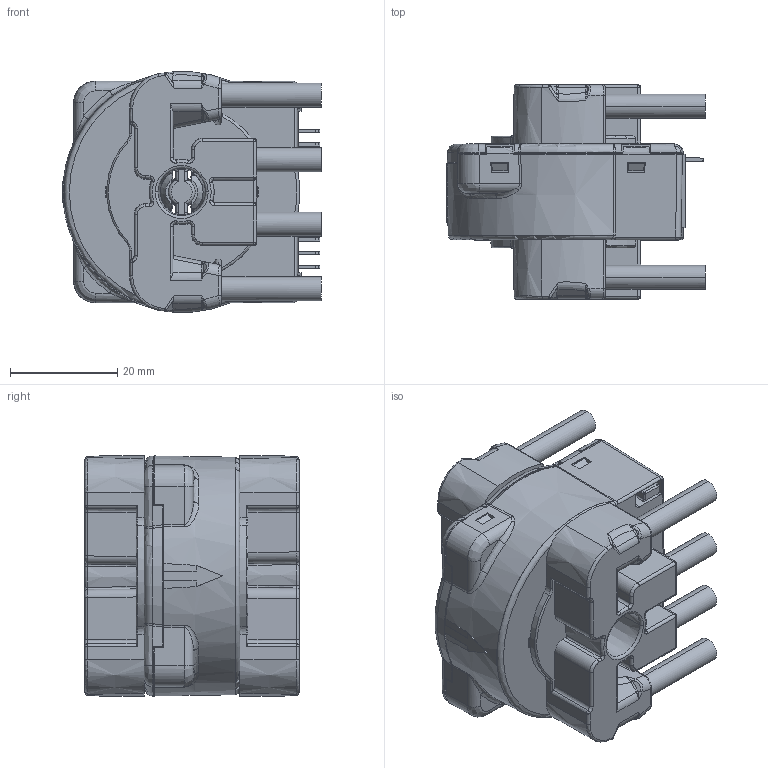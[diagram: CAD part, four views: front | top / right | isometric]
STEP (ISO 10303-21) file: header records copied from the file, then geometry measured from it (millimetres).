
FILE_DESCRIPTION(('Creo Elements/Direct Modeling STEP Export'),'2;1');
FILE_NAME('90.H3.A2.021.0_20210121.stp','2021-01-21T 9:48:41',(''),(''),'Creo Elements/Direct Modeling STEP processor for AP214 (Solid Model)','Creo Elements/Direct Modeling 20.1 10-Mar-2018 (C) Parametric Technology GmbH','');
FILE_SCHEMA(('AUTOMOTIVE_DESIGN { 1 0 10303 214 1 1 1 1 }'));
Length unit declared in the file: millimetre
Products named in the file (2): CTSR-0.3-TP-SP21
Assembly tree (1 placements, depth 2):
  CTSR-0.3-TP-SP21
    CTSR-0.3-TP-SP21
Bounding box: 48.36 x 40 x 45 mm (x, y, z)
Surface area: 26841.7 mm2
Topology: 48 solids, 49 shells, 4522 faces, 12980 edges, 8462 vertices
Faces by surface type: plane 3162, bspline 497, cylinder 497, extrusion 170, cone 122, torus 74
Entity records: 228118 total; most frequent: CARTESIAN_POINT 116572, ORIENTED_EDGE 25982, DIRECTION 18351, EDGE_CURVE 12935, VECTOR 8955, LINE 8785, VERTEX_POINT 8463, EDGE_LOOP 4767
